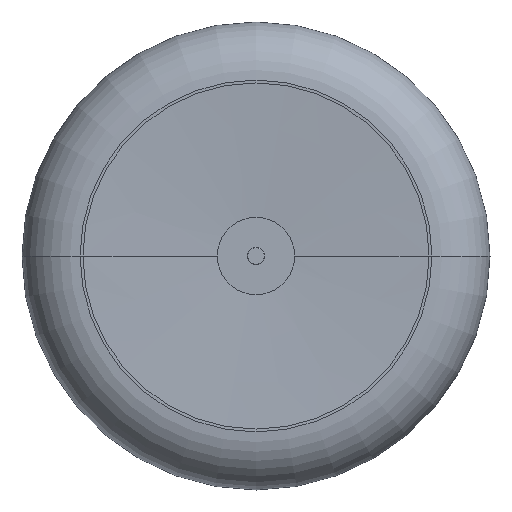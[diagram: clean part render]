
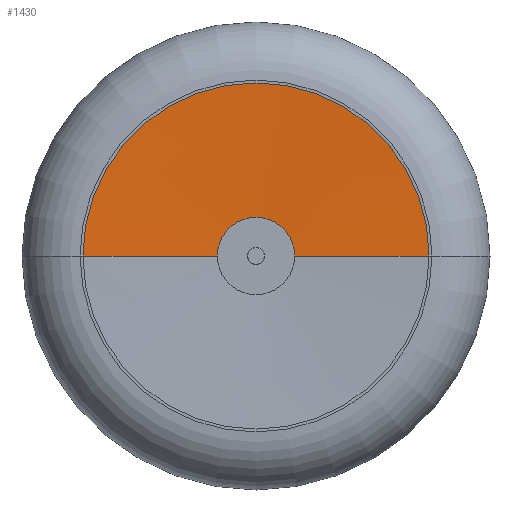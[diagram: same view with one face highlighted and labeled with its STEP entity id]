
A CAD part, front view. The second image highlights one B-rep face of the part: STEP entity #1430.
In plain terms, the highlighted conical face has half-angle 87.189 degrees and reference radius 201.19 mm.
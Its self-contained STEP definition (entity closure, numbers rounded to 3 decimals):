
#910=CARTESIAN_POINT('',(0.,-149.435,0.));
#920=DIRECTION('',(0.,1.,0.));
#930=DIRECTION('',(1.,0.,0.));
#940=AXIS2_PLACEMENT_3D('',#910,#920,#930);
#950=CIRCLE('',#940,45.);
#960=CARTESIAN_POINT('',(45.,-149.435,0.));
#970=VERTEX_POINT('',#960);
#980=CARTESIAN_POINT('',(-45.,-149.435,0.));
#990=VERTEX_POINT('',#980);
#1020=EDGE_CURVE('',#990,#970,#950,.T.);
#1120=CARTESIAN_POINT('',(0.,-157.104,0.));
#1130=DIRECTION('',(0.,-1.,0.));
#1140=DIRECTION('',(-1.,0.,0.));
#1150=AXIS2_PLACEMENT_3D('',#1120,#1130,#1140);
#1160=CONICAL_SURFACE('',#1150,201.19,1.522);
#1170=CARTESIAN_POINT('',(201.19,-157.104,
0.));
#1180=DIRECTION('',(0.999,-0.049,
0.));
#1190=VECTOR('',#1180,201.432);
#1200=LINE('',#1170,#1190);
#1210=CARTESIAN_POINT('',(201.19,-157.104,
0.));
#1220=VERTEX_POINT('',#1210);
#1230=EDGE_CURVE('',#970,#1220,#1200,.T.);
#1240=ORIENTED_EDGE('',*,*,#1230,.T.);
#1250=ORIENTED_EDGE('',*,*,#1020,.T.);
#1260=CARTESIAN_POINT('',(-201.19,-157.104,0.));
#1270=DIRECTION('',(-0.999,-0.049,0.));
#1280=VECTOR('',#1270,201.432);
#1290=LINE('',#1260,#1280);
#1300=CARTESIAN_POINT('',(-201.19,-157.104,0.));
#1310=VERTEX_POINT('',#1300);
#1320=EDGE_CURVE('',#990,#1310,#1290,.T.);
#1330=ORIENTED_EDGE('',*,*,#1320,.F.);
#1340=CARTESIAN_POINT('',(0.,-157.104,0.));
#1350=DIRECTION('',(0.,1.,0.));
#1360=DIRECTION('',(1.,0.,0.));
#1370=AXIS2_PLACEMENT_3D('',#1340,#1350,#1360);
#1380=CIRCLE('',#1370,201.19);
#1390=EDGE_CURVE('',#1310,#1220,#1380,.T.);
#1400=ORIENTED_EDGE('',*,*,#1390,.F.);
#1410=EDGE_LOOP('',(#1400,#1330,#1250,#1240));
#1420=FACE_OUTER_BOUND('',#1410,.T.);
#1430=ADVANCED_FACE('',(#1420),#1160,.F.);
